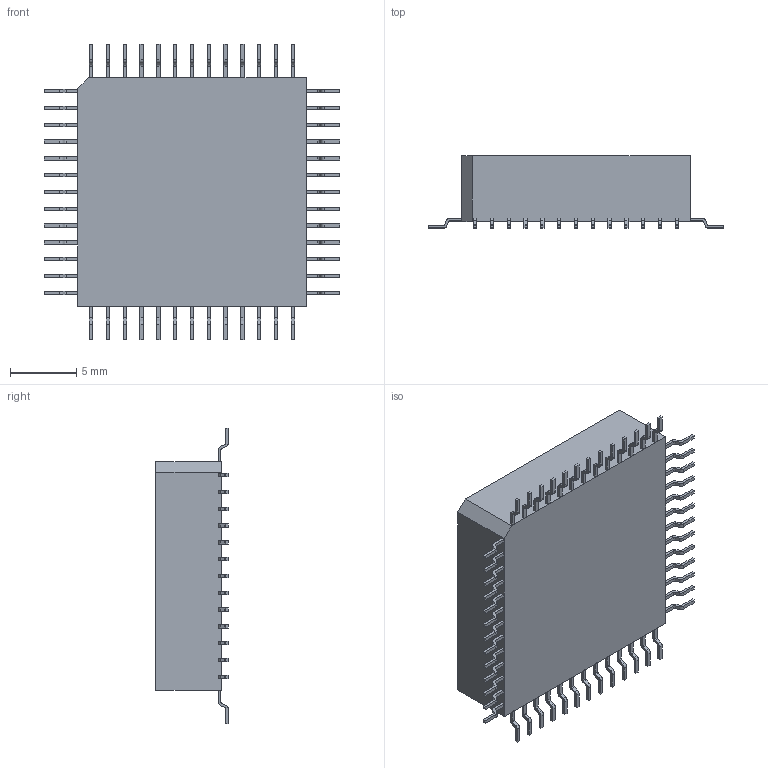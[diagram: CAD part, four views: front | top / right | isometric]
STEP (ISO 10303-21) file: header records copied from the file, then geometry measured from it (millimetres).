
FILE_DESCRIPTION (( 'STEP AP214' ), '1' );
FILE_NAME ( 'CQFP127P2235X2235X492-52L25.STEP', '2014-04-11T12:31:18', ( '' ), ( '' ), 'FPX Expert 2013', 'PCB Libraries', '' );
FILE_SCHEMA (( 'AUTOMOTIVE_DESIGN' ));
Length unit declared in the file: millimetre
Products named in the file (1): CQFP127P2235X2235X492-52L25
Bounding box: 22.35 x 5.47 x 22.35 mm (x, y, z)
Volume: 1487.3 mm3; surface area: 1079.5 mm2
Topology: 53 solids, 53 shells, 735 faces, 1887 edges, 1258 vertices
Faces by surface type: plane 527, cylinder 208
Entity records: 24897 total; most frequent: CARTESIAN_POINT 3881, DIRECTION 3775, ORIENTED_EDGE 3774, EDGE_CURVE 1887, VECTOR 1471, LINE 1471, VERTEX_POINT 1258, AXIS2_PLACEMENT_3D 1152
